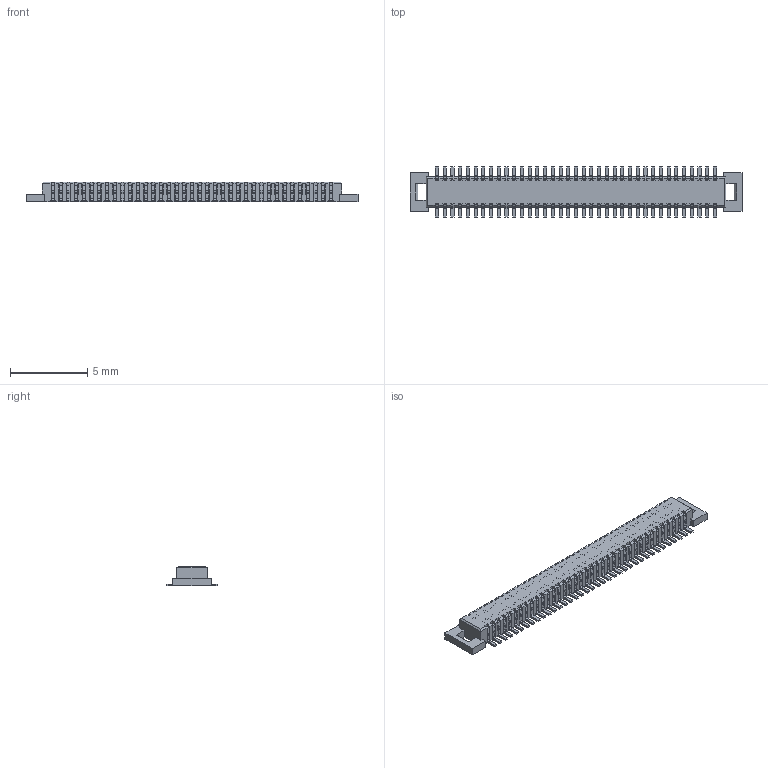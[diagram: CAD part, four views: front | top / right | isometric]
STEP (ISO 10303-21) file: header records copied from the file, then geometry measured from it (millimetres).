
FILE_DESCRIPTION(('CATIA V5 STEP Exchange'),'2;1');
FILE_NAME('F:\黄富鸿\板对板\0.5 单槽\无柱\公座\H1.28\HC-PBB05-1-74-M-H1.28-G1-R-06 (BTB0.5 单槽 公座 立贴 编带)-HCTL.stp','2026-01-20T02:52:33+00:00',('none'),('none'),'CATIA Version 5 Release 20 GA (IN-10)','CATIA V5 STEP AP203','none');
FILE_SCHEMA(('CONFIG_CONTROL_DESIGN'));
Products named in the file (1): Part1
Bounding box: 21.5 x 3.24 x 1.28 mm (x, y, z)
Volume: 48.1 mm3; surface area: 463.7 mm2
Topology: 75 solids, 75 shells, 3804 faces, 10964 edges, 7308 vertices
Faces by surface type: plane 3064, cylinder 740
Entity records: 113904 total; most frequent: ORIENTED_EDGE 21928, CARTESIAN_POINT 20463, DIRECTION 15332, EDGE_CURVE 10964, VECTOR 9480, LINE 9480, VERTEX_POINT 7308, EDGE_LOOP 3806
